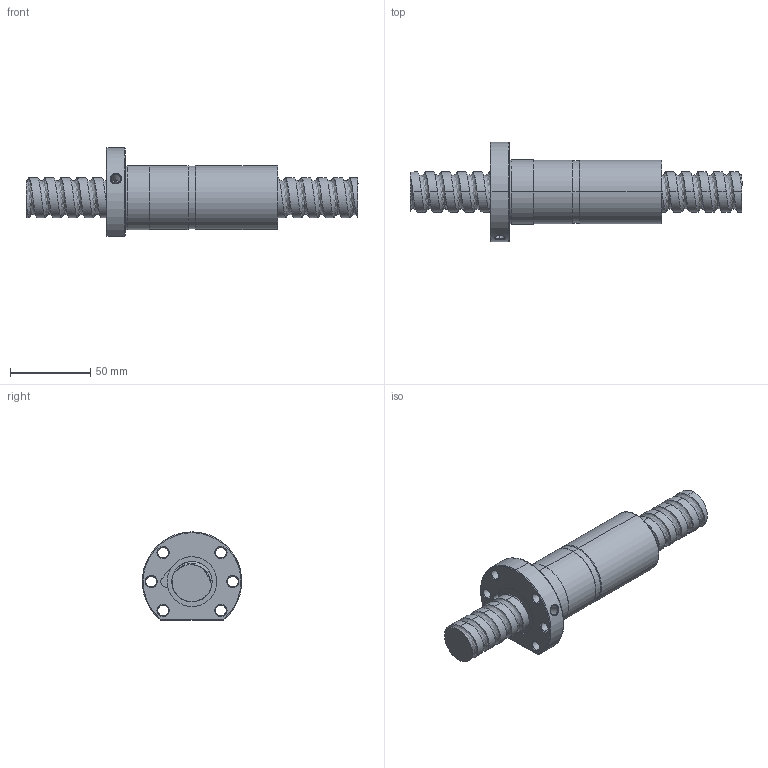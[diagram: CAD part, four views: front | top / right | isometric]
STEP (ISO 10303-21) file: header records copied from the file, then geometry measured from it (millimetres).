
FILE_DESCRIPTION (( 'STEP AP214' ), '1' );
FILE_NAME ('FDDC02010T4-D-B.STEP', '2010-07-06T02:59:48', ( 'XPAUTO' ), ( 'XPAUTO' ), 'SwSTEP 2.0', 'SolidWorks 2007', '' );
FILE_SCHEMA (( 'AUTOMOTIVE_DESIGN' ));
Length unit declared in the file: millimetre
Products named in the file (3): FDDC02010T4-D-B; FDDC02010T4-D-B.sldasm-Part-2_預設; FDDC02010T4-D-B.sldasm-Part-1_預設
Assembly tree (2 placements, depth 2):
  FDDC02010T4-D-B
    FDDC02010T4-D-B.sldasm-Part-2_預設
    FDDC02010T4-D-B.sldasm-Part-1_預設
Bounding box: 207 x 61.86 x 55 mm (x, y, z)
Volume: 187314.6 mm3; surface area: 48250.4 mm2
Topology: 2 solids, 2 shells, 142 faces, 355 edges, 222 vertices
Faces by surface type: cylinder 85, cone 24, plane 19, torus 9, bspline 5
Entity records: 26789 total; most frequent: CARTESIAN_POINT 23423, ORIENTED_EDGE 710, DIRECTION 651, EDGE_CURVE 355, AXIS2_PLACEMENT_3D 265, VERTEX_POINT 222, EDGE_LOOP 163, FACE_OUTER_BOUND 142
